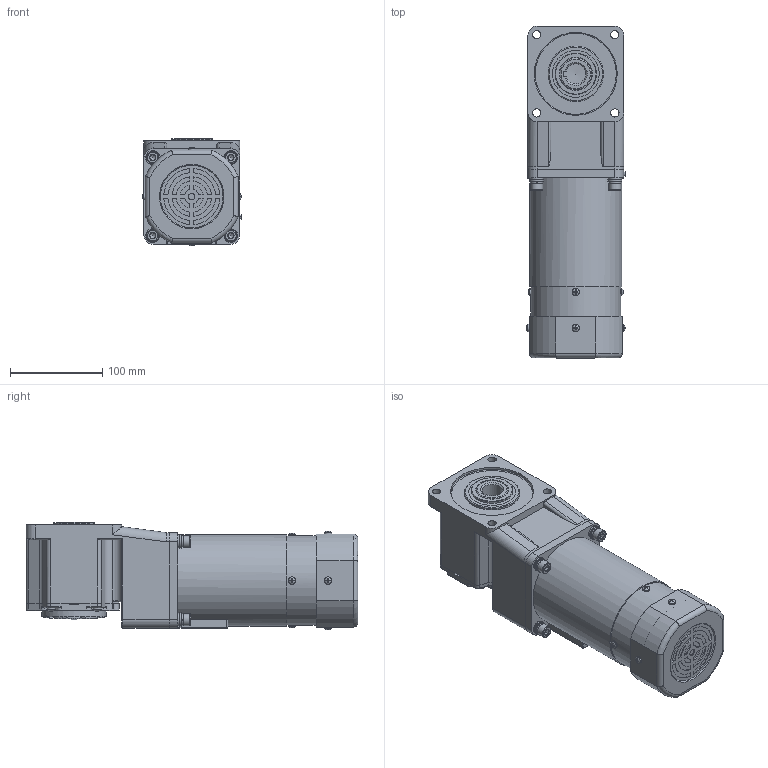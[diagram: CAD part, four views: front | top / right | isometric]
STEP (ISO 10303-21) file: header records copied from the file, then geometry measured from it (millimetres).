
FILE_DESCRIPTION(/* description */ (''),/* implementation_level */ '2;1');
FILE_NAME(/* name */ '100+直角中空-刹车风叶-140W.stp',/* time_stamp */ '2022-09-27T13:02:48+08:00',/* author */ (''),/* organization */ (''),/* preprocessor_version */ 'ST-DEVELOPER v16.7',/* originating_system */ 'SIEMENS PLM Software NX 1899',/* authorisation */ '');
FILE_SCHEMA (('AP203_CONFIGURATION_CONTROLLED_3D_DESIGN_OF_MECHANICAL_PARTS_AND_ASSEMBLIES_MIM_LF { 1 0 10303 403 2 1 2}'));
Length unit declared in the file: millimetre
Products named in the file (1): yf1835C809DDug7a
Bounding box: 107.66 x 360.5 x 117.08 mm (x, y, z)
Volume: 3086145.8 mm3; surface area: 241503.7 mm2
Topology: 15 solids, 15 shells, 875 faces, 2132 edges, 1346 vertices
Faces by surface type: plane 517, cylinder 237, torus 58, cone 48, bspline 9, sphere 6
Full cylindrical faces by diameter (mm): 3.3 x2, 3.5 x2, 4 x4, 4.8 x1, 6 x8, 6.8 x4, 7 x1, 7.76 x4, 8 x8, 8.4 x4, 9 x8, 9.5 x4, 13 x4, 14 x4, 15 x4, 45 x1, 52 x1, 52.5 x1, 60 x1, 65 x1, 65.5 x1, 70 x1, 77 x1, 90 x1, 97.5 x1, 98 x2, 100 x1
Entity records: 26747 total; most frequent: CARTESIAN_POINT 5570, DIRECTION 4205, ORIENTED_EDGE 3856, EDGE_CURVE 1928, AXIS2_PLACEMENT_3D 1597, VERTEX_POINT 1283, EDGE_LOOP 1103, LINE 1011
